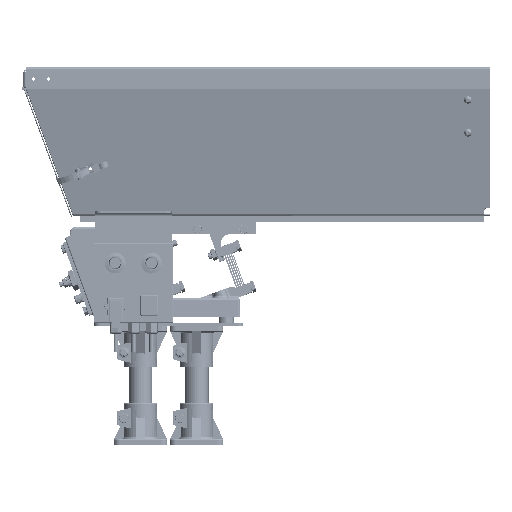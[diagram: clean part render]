
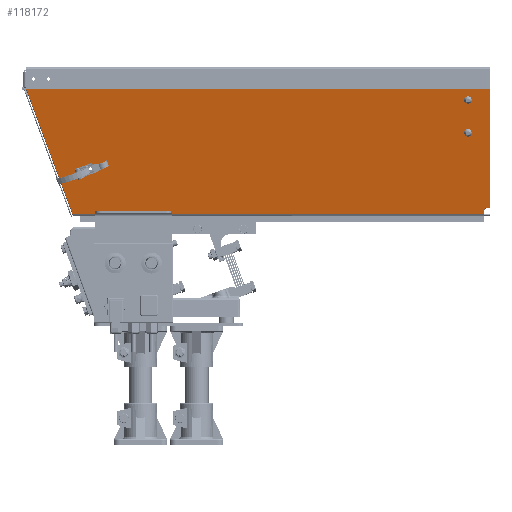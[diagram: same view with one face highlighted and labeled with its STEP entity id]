
A CAD part, front view. The second image highlights one B-rep face of the part: STEP entity #118172.
In plain terms, the highlighted planar face has unit normal (0, -0.982, -0.191).
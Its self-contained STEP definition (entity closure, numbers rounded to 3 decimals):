
#2293 = ORIENTED_EDGE ( 'NONE', *, *, #123463, .F. ) ;
#5325 = DIRECTION ( 'NONE',  ( 0., -0.191, 0.982 ) ) ;
#6023 = ORIENTED_EDGE ( 'NONE', *, *, #140330, .T. ) ;
#6278 = FACE_OUTER_BOUND ( 'NONE', #99567, .T. ) ;
#6878 = VECTOR ( 'NONE', #5325, 1000. ) ;
#7164 = DIRECTION ( 'NONE',  ( 0., 0.191, -0.982 ) ) ;
#7231 = CIRCLE ( 'NONE', #43021, 2.75 ) ;
#7322 = CARTESIAN_POINT ( 'NONE',  ( -333.156, -113.969, 71.863 ) ) ;
#7748 = FACE_BOUND ( 'NONE', #113203, .T. ) ;
#7907 = DIRECTION ( 'NONE',  ( 0., -0.982, -0.191 ) ) ;
#8269 = ORIENTED_EDGE ( 'NONE', *, *, #53238, .T. ) ;
#8406 = VERTEX_POINT ( 'NONE', #126164 ) ;
#8413 = EDGE_CURVE ( 'NONE', #61924, #8406, #68478, .T. ) ;
#8520 = DIRECTION ( 'NONE',  ( 0., 0.191, -0.982 ) ) ;
#8617 = DIRECTION ( 'NONE',  ( 0., 0.191, -0.982 ) ) ;
#8684 = AXIS2_PLACEMENT_3D ( 'NONE', #100039, #7907, #7164 ) ;
#9063 = CARTESIAN_POINT ( 'NONE',  ( -320., -115.407, 79.263 ) ) ;
#10005 = VERTEX_POINT ( 'NONE', #46951 ) ;
#11131 = VERTEX_POINT ( 'NONE', #69639 ) ;
#11768 = DIRECTION ( 'NONE',  ( -1., 0., 0. ) ) ;
#12298 = CARTESIAN_POINT ( 'NONE',  ( -302.268, -75.293, -127.107 ) ) ;
#13761 = CARTESIAN_POINT ( 'NONE',  ( 339.3, -100.99, 5.092 ) ) ;
#15966 = DIRECTION ( 'NONE',  ( 0., -0.982, -0.191 ) ) ;
#17251 = ORIENTED_EDGE ( 'NONE', *, *, #69197, .F. ) ;
#17304 = DIRECTION ( 'NONE',  ( 1., 0., 0. ) ) ;
#18771 = CIRCLE ( 'NONE', #126493, 3.05 ) ;
#19849 = DIRECTION ( 'NONE',  ( 0., -0.982, -0.191 ) ) ;
#20109 = DIRECTION ( 'NONE',  ( 0., 0.982, 0.191 ) ) ;
#20445 = FACE_BOUND ( 'NONE', #34567, .T. ) ;
#21887 = DIRECTION ( 'NONE',  ( 0., 0.191, -0.982 ) ) ;
#22132 = AXIS2_PLACEMENT_3D ( 'NONE', #137087, #49855, #113871 ) ;
#23405 = EDGE_CURVE ( 'NONE', #50502, #35385, #56689, .T. ) ;
#25298 = VERTEX_POINT ( 'NONE', #79524 ) ;
#26119 = CARTESIAN_POINT ( 'NONE',  ( -333.156, -113.444, 69.163 ) ) ;
#28057 = CARTESIAN_POINT ( 'NONE',  ( 313., -127.168, 139.767 ) ) ;
#28568 = EDGE_CURVE ( 'NONE', #10005, #65235, #41046, .T. ) ;
#29929 = CARTESIAN_POINT ( 'NONE',  ( 349.3, -96.285, -19.112 ) ) ;
#30468 = VECTOR ( 'NONE', #69214, 1000. ) ;
#32752 = DIRECTION ( 'NONE',  ( 0., 0.191, -0.982 ) ) ;
#34567 = EDGE_LOOP ( 'NONE', ( #59062, #2293 ) ) ;
#35385 = VERTEX_POINT ( 'NONE', #141331 ) ;
#36238 = AXIS2_PLACEMENT_3D ( 'NONE', #7322, #88936, #77734 ) ;
#37688 = VERTEX_POINT ( 'NONE', #141700 ) ;
#41046 = CIRCLE ( 'NONE', #136791, 3.05 ) ;
#41415 = ORIENTED_EDGE ( 'NONE', *, *, #28568, .F. ) ;
#41442 = PLANE ( 'NONE',  #134707 ) ;
#43021 = AXIS2_PLACEMENT_3D ( 'NONE', #74383, #15966, #107369 ) ;
#44410 = ORIENTED_EDGE ( 'NONE', *, *, #52680, .F. ) ;
#44639 = CARTESIAN_POINT ( 'NONE',  ( 313., -137.853, 194.739 ) ) ;
#45572 = ORIENTED_EDGE ( 'NONE', *, *, #23405, .T. ) ;
#46951 = CARTESIAN_POINT ( 'NONE',  ( 313., -126.004, 133.779 ) ) ;
#49001 = EDGE_CURVE ( 'NONE', #116298, #25298, #62515, .T. ) ;
#49855 = DIRECTION ( 'NONE',  ( 0., -0.982, -0.191 ) ) ;
#50502 = VERTEX_POINT ( 'NONE', #121063 ) ;
#51268 = CARTESIAN_POINT ( 'NONE',  ( 313., -136.689, 188.751 ) ) ;
#52680 = EDGE_CURVE ( 'NONE', #65019, #142366, #141178, .T. ) ;
#53016 = AXIS2_PLACEMENT_3D ( 'NONE', #100276, #20109, #99540 ) ;
#53238 = EDGE_CURVE ( 'NONE', #77848, #37688, #140222, .T. ) ;
#56689 = LINE ( 'NONE', #102434, #70812 ) ;
#57595 = ORIENTED_EDGE ( 'NONE', *, *, #85172, .T. ) ;
#59062 = ORIENTED_EDGE ( 'NONE', *, *, #49001, .F. ) ;
#61924 = VERTEX_POINT ( 'NONE', #112986 ) ;
#62355 = ORIENTED_EDGE ( 'NONE', *, *, #66408, .F. ) ;
#62515 = CIRCLE ( 'NONE', #36238, 2.75 ) ;
#63918 = CARTESIAN_POINT ( 'NONE',  ( 0., -96.285, -19.112 ) ) ;
#65019 = VERTEX_POINT ( 'NONE', #44639 ) ;
#65218 = AXIS2_PLACEMENT_3D ( 'NONE', #111480, #77747, #32752 ) ;
#65235 = VERTEX_POINT ( 'NONE', #28057 ) ;
#66408 = EDGE_CURVE ( 'NONE', #61924, #82972, #141255, .T. ) ;
#66672 = ORIENTED_EDGE ( 'NONE', *, *, #113428, .F. ) ;
#68478 = LINE ( 'NONE', #13761, #72634 ) ;
#69197 = EDGE_CURVE ( 'NONE', #65235, #10005, #18771, .T. ) ;
#69214 = DIRECTION ( 'NONE',  ( 0.342, 0.179, -0.922 ) ) ;
#69639 = CARTESIAN_POINT ( 'NONE',  ( 349.3, -102.325, 11.963 ) ) ;
#70812 = VECTOR ( 'NONE', #11768, 1000. ) ;
#72634 = VECTOR ( 'NONE', #137417, 1000. ) ;
#73094 = CARTESIAN_POINT ( 'NONE',  ( -350.6, -100.24, 1.237 ) ) ;
#73302 = CIRCLE ( 'NONE', #8684, 2.75 ) ;
#73745 = VERTEX_POINT ( 'NONE', #9063 ) ;
#74383 = CARTESIAN_POINT ( 'NONE',  ( -320., -114.882, 76.563 ) ) ;
#75977 = DIRECTION ( 'NONE',  ( 0., -0.982, -0.191 ) ) ;
#76662 = FACE_BOUND ( 'NONE', #103816, .T. ) ;
#77734 = DIRECTION ( 'NONE',  ( 0., 0.191, -0.982 ) ) ;
#77747 = DIRECTION ( 'NONE',  ( 0., -0.982, -0.191 ) ) ;
#77848 = VERTEX_POINT ( 'NONE', #95507 ) ;
#79524 = CARTESIAN_POINT ( 'NONE',  ( -333.156, -114.493, 74.562 ) ) ;
#80607 = EDGE_LOOP ( 'NONE', ( #41415, #17251 ) ) ;
#82972 = VERTEX_POINT ( 'NONE', #86072 ) ;
#83990 = CARTESIAN_POINT ( 'NONE',  ( 348., -102.077, 10.687 ) ) ;
#84367 = DIRECTION ( 'NONE',  ( 0., 0.191, -0.982 ) ) ;
#85172 = EDGE_CURVE ( 'NONE', #35385, #82972, #135183, .T. ) ;
#86072 = CARTESIAN_POINT ( 'NONE',  ( -349.855, -100.24, 1.237 ) ) ;
#86402 = EDGE_CURVE ( 'NONE', #11131, #50502, #118432, .T. ) ;
#88936 = DIRECTION ( 'NONE',  ( 0., -0.982, -0.191 ) ) ;
#89720 = ORIENTED_EDGE ( 'NONE', *, *, #86402, .T. ) ;
#91322 = ORIENTED_EDGE ( 'NONE', *, *, #8413, .T. ) ;
#93918 = CIRCLE ( 'NONE', #22132, 1.3 ) ;
#95507 = CARTESIAN_POINT ( 'NONE',  ( 345., -102.077, 10.687 ) ) ;
#98380 = DIRECTION ( 'NONE',  ( 0., -0.191, 0.982 ) ) ;
#99540 = DIRECTION ( 'NONE',  ( 0., -0.191, 0.982 ) ) ;
#99567 = EDGE_LOOP ( 'NONE', ( #62355, #91322, #6023, #8269, #112703, #89720, #45572, #57595 ) ) ;
#100039 = CARTESIAN_POINT ( 'NONE',  ( -333.156, -113.969, 71.863 ) ) ;
#100276 = CARTESIAN_POINT ( 'NONE',  ( 345., -100.99, 5.092 ) ) ;
#102072 = DIRECTION ( 'NONE',  ( 0., -0.982, -0.191 ) ) ;
#102434 = CARTESIAN_POINT ( 'NONE',  ( 350., -140.78, 209.795 ) ) ;
#103816 = EDGE_LOOP ( 'NONE', ( #127540, #66672 ) ) ;
#105587 = CARTESIAN_POINT ( 'NONE',  ( -320., -114.358, 73.864 ) ) ;
#106127 = CIRCLE ( 'NONE', #110816, 2.75 ) ;
#106451 = VECTOR ( 'NONE', #17304, 1000. ) ;
#107369 = DIRECTION ( 'NONE',  ( 0., 0.191, -0.982 ) ) ;
#108138 = CIRCLE ( 'NONE', #53016, 5.7 ) ;
#108260 = EDGE_CURVE ( 'NONE', #37688, #11131, #93918, .T. ) ;
#108284 = DIRECTION ( 'NONE',  ( -1., 0., 0. ) ) ;
#108343 = CARTESIAN_POINT ( 'NONE',  ( 313., -126.586, 136.773 ) ) ;
#108909 = FACE_BOUND ( 'NONE', #80607, .T. ) ;
#108945 = EDGE_CURVE ( 'NONE', #129558, #73745, #106127, .T. ) ;
#110703 = CIRCLE ( 'NONE', #65218, 3.05 ) ;
#110816 = AXIS2_PLACEMENT_3D ( 'NONE', #111841, #102072, #21887 ) ;
#111139 = DIRECTION ( 'NONE',  ( 0., 0.982, 0.191 ) ) ;
#111480 = CARTESIAN_POINT ( 'NONE',  ( 313., -137.271, 191.745 ) ) ;
#111841 = CARTESIAN_POINT ( 'NONE',  ( -320., -114.882, 76.563 ) ) ;
#112703 = ORIENTED_EDGE ( 'NONE', *, *, #108260, .T. ) ;
#112986 = CARTESIAN_POINT ( 'NONE',  ( 339.3, -100.24, 1.237 ) ) ;
#113203 = EDGE_LOOP ( 'NONE', ( #113445, #44410 ) ) ;
#113428 = EDGE_CURVE ( 'NONE', #73745, #129558, #7231, .T. ) ;
#113445 = ORIENTED_EDGE ( 'NONE', *, *, #129888, .F. ) ;
#113871 = DIRECTION ( 'NONE',  ( 0., -0.191, 0.982 ) ) ;
#114218 = VECTOR ( 'NONE', #108284, 1000. ) ;
#116298 = VERTEX_POINT ( 'NONE', #26119 ) ;
#118172 = ADVANCED_FACE ( 'NONE', ( #76662, #20445, #108909, #7748, #6278 ), #41442, .F. ) ;
#118432 = LINE ( 'NONE', #29929, #6878 ) ;
#119561 = DIRECTION ( 'NONE',  ( 0., -0.982, -0.191 ) ) ;
#121063 = CARTESIAN_POINT ( 'NONE',  ( 349.3, -140.78, 209.795 ) ) ;
#122514 = CARTESIAN_POINT ( 'NONE',  ( 313., -137.271, 191.745 ) ) ;
#123144 = CARTESIAN_POINT ( 'NONE',  ( 313., -126.586, 136.773 ) ) ;
#123463 = EDGE_CURVE ( 'NONE', #25298, #116298, #73302, .T. ) ;
#126164 = CARTESIAN_POINT ( 'NONE',  ( 339.3, -100.99, 5.092 ) ) ;
#126493 = AXIS2_PLACEMENT_3D ( 'NONE', #123144, #75977, #8520 ) ;
#127540 = ORIENTED_EDGE ( 'NONE', *, *, #108945, .F. ) ;
#129193 = AXIS2_PLACEMENT_3D ( 'NONE', #122514, #19849, #8617 ) ;
#129558 = VERTEX_POINT ( 'NONE', #105587 ) ;
#129888 = EDGE_CURVE ( 'NONE', #142366, #65019, #110703, .T. ) ;
#134707 = AXIS2_PLACEMENT_3D ( 'NONE', #63918, #111139, #98380 ) ;
#135183 = LINE ( 'NONE', #12298, #30468 ) ;
#136791 = AXIS2_PLACEMENT_3D ( 'NONE', #108343, #119561, #84367 ) ;
#137087 = CARTESIAN_POINT ( 'NONE',  ( 348., -102.325, 11.963 ) ) ;
#137417 = DIRECTION ( 'NONE',  ( 0., -0.191, 0.982 ) ) ;
#140222 = LINE ( 'NONE', #83990, #106451 ) ;
#140330 = EDGE_CURVE ( 'NONE', #8406, #77848, #108138, .T. ) ;
#141178 = CIRCLE ( 'NONE', #129193, 3.05 ) ;
#141255 = LINE ( 'NONE', #73094, #114218 ) ;
#141331 = CARTESIAN_POINT ( 'NONE',  ( -427.185, -140.78, 209.795 ) ) ;
#141700 = CARTESIAN_POINT ( 'NONE',  ( 348., -102.077, 10.687 ) ) ;
#142366 = VERTEX_POINT ( 'NONE', #51268 ) ;
